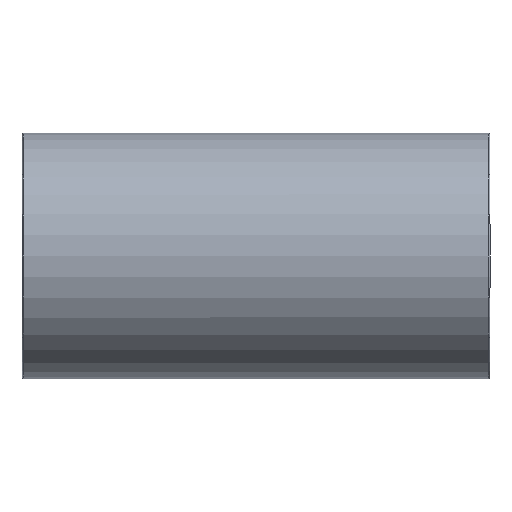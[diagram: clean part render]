
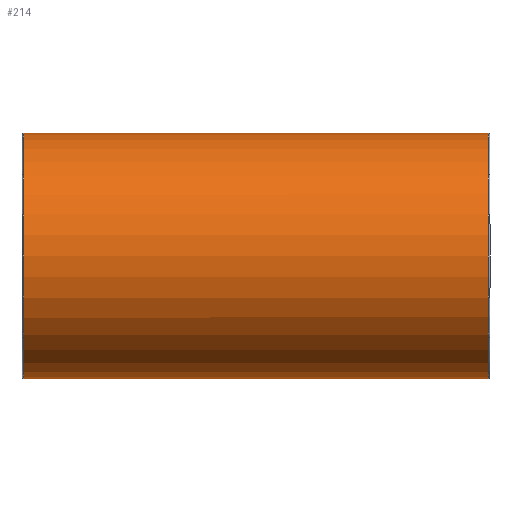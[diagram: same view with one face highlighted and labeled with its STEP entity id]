
A CAD part, front view. The second image highlights one B-rep face of the part: STEP entity #214.
In plain terms, the highlighted cylindrical face has radius 20.5 mm (diameter 41 mm), a full revolution.
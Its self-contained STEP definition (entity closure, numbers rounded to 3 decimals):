
#27=B_SPLINE_CURVE_WITH_KNOTS('',3,(#355,#356,#357,#358,#359,#360,#361,
#362,#363,#364,#365,#366,#367,#368,#369,#370,#371,#372,#373,#374,#375,#376,
#377,#378,#379,#380,#381,#382,#383,#384,#385,#386,#387,#388,#389,#390,#391,
#392,#393,#394,#395,#396,#397,#398,#399,#400,#401,#402,#403,#404,#405,#406,
#407,#408,#409,#410,#411,#412,#413,#414,#415,#416,#417,#418,#419,#420),
 .UNSPECIFIED.,.T.,.F.,(4,2,2,2,2,2,2,2,2,2,2,2,2,2,2,2,2,2,2,2,2,2,2,2,
2,2,2,2,2,2,2,2,4),(0.,0.339,0.678,1.017,
1.356,1.684,2.012,2.341,2.669,
2.997,3.325,3.653,3.981,4.32,
4.659,4.998,5.337,5.676,6.015,
6.355,6.694,7.022,7.35,7.678,
8.006,8.334,8.662,8.99,9.318,
9.657,9.997,10.336,10.675),
 .UNSPECIFIED.);
#29=FACE_BOUND('',#70,.T.);
#30=FACE_BOUND('',#71,.T.);
#50=FACE_OUTER_BOUND('',#69,.T.);
#69=EDGE_LOOP('',(#167));
#70=EDGE_LOOP('',(#168));
#71=EDGE_LOOP('',(#169));
#109=CIRCLE('',#236,20.5);
#110=CIRCLE('',#237,20.5);
#127=VERTEX_POINT('',#350);
#128=VERTEX_POINT('',#352);
#129=VERTEX_POINT('',#354);
#147=EDGE_CURVE('',#127,#127,#109,.T.);
#148=EDGE_CURVE('',#128,#128,#110,.T.);
#149=EDGE_CURVE('',#129,#129,#27,.T.);
#167=ORIENTED_EDGE('',*,*,#147,.F.);
#168=ORIENTED_EDGE('',*,*,#148,.F.);
#169=ORIENTED_EDGE('',*,*,#149,.F.);
#207=CYLINDRICAL_SURFACE('',#235,20.5);
#214=ADVANCED_FACE('',(#50,#29,#30),#207,.T.);
#235=AXIS2_PLACEMENT_3D('',#349,#274,#275);
#236=AXIS2_PLACEMENT_3D('',#351,#276,#277);
#237=AXIS2_PLACEMENT_3D('',#353,#278,#279);
#274=DIRECTION('center_axis',(1.,0.,0.));
#275=DIRECTION('ref_axis',(0.,1.,0.));
#276=DIRECTION('center_axis',(-1.,0.,0.));
#277=DIRECTION('ref_axis',(0.,-1.,0.));
#278=DIRECTION('center_axis',(1.,0.,0.));
#279=DIRECTION('ref_axis',(0.,-1.,0.));
#349=CARTESIAN_POINT('Origin',(0.,0.,
0.));
#350=CARTESIAN_POINT('',(-38.68,20.5,0.));
#351=CARTESIAN_POINT('Origin',(-38.68,0.,0.));
#352=CARTESIAN_POINT('',(38.68,20.5,0.));
#353=CARTESIAN_POINT('Origin',(38.68,0.,0.));
#354=CARTESIAN_POINT('',(0.,12.166,16.5));
#355=CARTESIAN_POINT('Ctrl Pts',(0.,12.166,
16.5));
#356=CARTESIAN_POINT('Ctrl Pts',(1.13,12.166,16.5));
#357=CARTESIAN_POINT('Ctrl Pts',(2.249,12.328,16.383));
#358=CARTESIAN_POINT('Ctrl Pts',(4.415,12.9,15.937));
#359=CARTESIAN_POINT('Ctrl Pts',(5.463,13.307,15.607));
#360=CARTESIAN_POINT('Ctrl Pts',(7.453,14.24,14.76));
#361=CARTESIAN_POINT('Ctrl Pts',(8.397,14.765,14.243));
#362=CARTESIAN_POINT('Ctrl Pts',(10.145,15.825,13.056));
#363=CARTESIAN_POINT('Ctrl Pts',(10.949,16.359,12.385));
#364=CARTESIAN_POINT('Ctrl Pts',(12.362,17.337,10.973));
#365=CARTESIAN_POINT('Ctrl Pts',(13.027,17.82,10.182));
#366=CARTESIAN_POINT('Ctrl Pts',(14.219,18.709,8.437));
#367=CARTESIAN_POINT('Ctrl Pts',(14.747,19.115,7.483));
#368=CARTESIAN_POINT('Ctrl Pts',(15.609,19.788,5.461));
#369=CARTESIAN_POINT('Ctrl Pts',(15.944,20.055,4.392));
#370=CARTESIAN_POINT('Ctrl Pts',(16.39,20.411,2.208));
#371=CARTESIAN_POINT('Ctrl Pts',(16.5,20.5,1.094));
#372=CARTESIAN_POINT('Ctrl Pts',(16.5,20.5,-1.094));
#373=CARTESIAN_POINT('Ctrl Pts',(16.39,20.411,-2.208));
#374=CARTESIAN_POINT('Ctrl Pts',(15.944,20.055,-4.392));
#375=CARTESIAN_POINT('Ctrl Pts',(15.609,19.788,-5.461));
#376=CARTESIAN_POINT('Ctrl Pts',(14.747,19.115,-7.483));
#377=CARTESIAN_POINT('Ctrl Pts',(14.219,18.709,-8.437));
#378=CARTESIAN_POINT('Ctrl Pts',(13.027,17.82,-10.182));
#379=CARTESIAN_POINT('Ctrl Pts',(12.362,17.337,-10.973));
#380=CARTESIAN_POINT('Ctrl Pts',(10.949,16.359,-12.385));
#381=CARTESIAN_POINT('Ctrl Pts',(10.145,15.825,-13.056));
#382=CARTESIAN_POINT('Ctrl Pts',(8.397,14.765,-14.243));
#383=CARTESIAN_POINT('Ctrl Pts',(7.453,14.24,-14.76));
#384=CARTESIAN_POINT('Ctrl Pts',(5.463,13.307,-15.607));
#385=CARTESIAN_POINT('Ctrl Pts',(4.415,12.9,-15.937));
#386=CARTESIAN_POINT('Ctrl Pts',(2.249,12.328,-16.383));
#387=CARTESIAN_POINT('Ctrl Pts',(1.13,12.166,-16.5));
#388=CARTESIAN_POINT('Ctrl Pts',(-1.13,12.166,-16.5));
#389=CARTESIAN_POINT('Ctrl Pts',(-2.249,12.328,-16.383));
#390=CARTESIAN_POINT('Ctrl Pts',(-4.415,12.9,-15.937));
#391=CARTESIAN_POINT('Ctrl Pts',(-5.463,13.307,-15.607));
#392=CARTESIAN_POINT('Ctrl Pts',(-7.453,14.24,-14.76));
#393=CARTESIAN_POINT('Ctrl Pts',(-8.397,14.765,-14.243));
#394=CARTESIAN_POINT('Ctrl Pts',(-10.145,15.825,-13.056));
#395=CARTESIAN_POINT('Ctrl Pts',(-10.949,16.359,-12.385));
#396=CARTESIAN_POINT('Ctrl Pts',(-12.362,17.337,-10.973));
#397=CARTESIAN_POINT('Ctrl Pts',(-13.027,17.82,-10.182));
#398=CARTESIAN_POINT('Ctrl Pts',(-14.219,18.709,-8.437));
#399=CARTESIAN_POINT('Ctrl Pts',(-14.747,19.115,-7.483));
#400=CARTESIAN_POINT('Ctrl Pts',(-15.609,19.788,-5.461));
#401=CARTESIAN_POINT('Ctrl Pts',(-15.944,20.055,-4.392));
#402=CARTESIAN_POINT('Ctrl Pts',(-16.39,20.411,-2.208));
#403=CARTESIAN_POINT('Ctrl Pts',(-16.5,20.5,-1.094));
#404=CARTESIAN_POINT('Ctrl Pts',(-16.5,20.5,1.094));
#405=CARTESIAN_POINT('Ctrl Pts',(-16.39,20.411,2.208));
#406=CARTESIAN_POINT('Ctrl Pts',(-15.944,20.055,4.392));
#407=CARTESIAN_POINT('Ctrl Pts',(-15.609,19.788,5.461));
#408=CARTESIAN_POINT('Ctrl Pts',(-14.747,19.115,7.483));
#409=CARTESIAN_POINT('Ctrl Pts',(-14.219,18.709,8.437));
#410=CARTESIAN_POINT('Ctrl Pts',(-13.027,17.82,10.182));
#411=CARTESIAN_POINT('Ctrl Pts',(-12.362,17.337,10.973));
#412=CARTESIAN_POINT('Ctrl Pts',(-10.949,16.359,12.385));
#413=CARTESIAN_POINT('Ctrl Pts',(-10.145,15.825,13.056));
#414=CARTESIAN_POINT('Ctrl Pts',(-8.397,14.765,14.243));
#415=CARTESIAN_POINT('Ctrl Pts',(-7.453,14.24,14.76));
#416=CARTESIAN_POINT('Ctrl Pts',(-5.463,13.307,15.607));
#417=CARTESIAN_POINT('Ctrl Pts',(-4.415,12.9,15.937));
#418=CARTESIAN_POINT('Ctrl Pts',(-2.249,12.328,16.383));
#419=CARTESIAN_POINT('Ctrl Pts',(-1.13,12.166,16.5));
#420=CARTESIAN_POINT('Ctrl Pts',(0.,12.166,
16.5));
